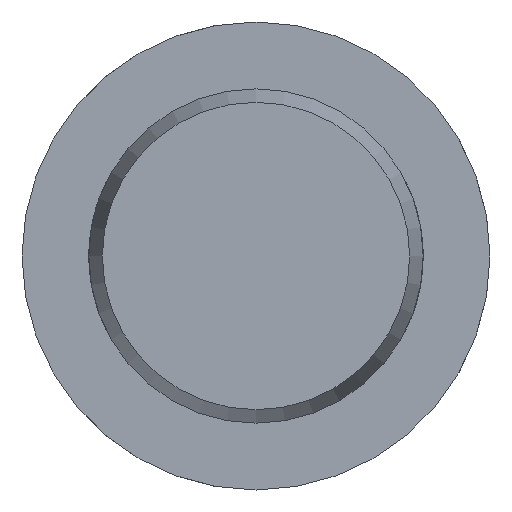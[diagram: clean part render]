
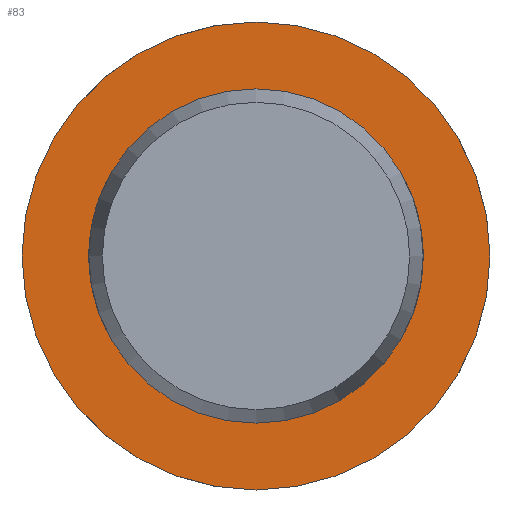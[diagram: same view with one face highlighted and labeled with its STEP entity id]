
A CAD part, left-side view. The second image highlights one B-rep face of the part: STEP entity #83.
In plain terms, the highlighted planar face has unit normal (-1, 0, 0).
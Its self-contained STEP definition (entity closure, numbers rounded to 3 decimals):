
#83 = ADVANCED_FACE( '', ( #129, #130 ), #131, .F. );
#129 = FACE_OUTER_BOUND( '', #208, .T. );
#130 = FACE_BOUND( '', #209, .T. );
#131 = PLANE( '', #210 );
#208 = EDGE_LOOP( '', ( #325 ) );
#209 = EDGE_LOOP( '', ( #326 ) );
#210 = AXIS2_PLACEMENT_3D( '', #327, #328, #329 );
#325 = ORIENTED_EDGE( '', *, *, #493, .F. );
#326 = ORIENTED_EDGE( '', *, *, #483, .T. );
#327 = CARTESIAN_POINT( '', ( 90.5, 10., 0. ) );
#328 = DIRECTION( '', ( 1., 0., 0. ) );
#329 = DIRECTION( '', ( 0., 1., 0. ) );
#483 = EDGE_CURVE( '', #554, #554, #555, .T. );
#493 = EDGE_CURVE( '', #572, #572, #573, .T. );
#554 = VERTEX_POINT( '', #759 );
#555 = CIRCLE( '', #760, 10. );
#572 = VERTEX_POINT( '', #942 );
#573 = CIRCLE( '', #943, 14. );
#759 = CARTESIAN_POINT( '', ( 90.5, 10., 0. ) );
#760 = AXIS2_PLACEMENT_3D( '', #1006, #1007, #1008 );
#942 = CARTESIAN_POINT( '', ( 90.5, 14., 0. ) );
#943 = AXIS2_PLACEMENT_3D( '', #1027, #1028, #1029 );
#1006 = CARTESIAN_POINT( '', ( 90.5, 0., 0. ) );
#1007 = DIRECTION( '', ( 1., 0., 0. ) );
#1008 = DIRECTION( '', ( 0., 1., 0. ) );
#1027 = CARTESIAN_POINT( '', ( 90.5, 0., 0. ) );
#1028 = DIRECTION( '', ( 1., 0., 0. ) );
#1029 = DIRECTION( '', ( 0., 1., 0. ) );
